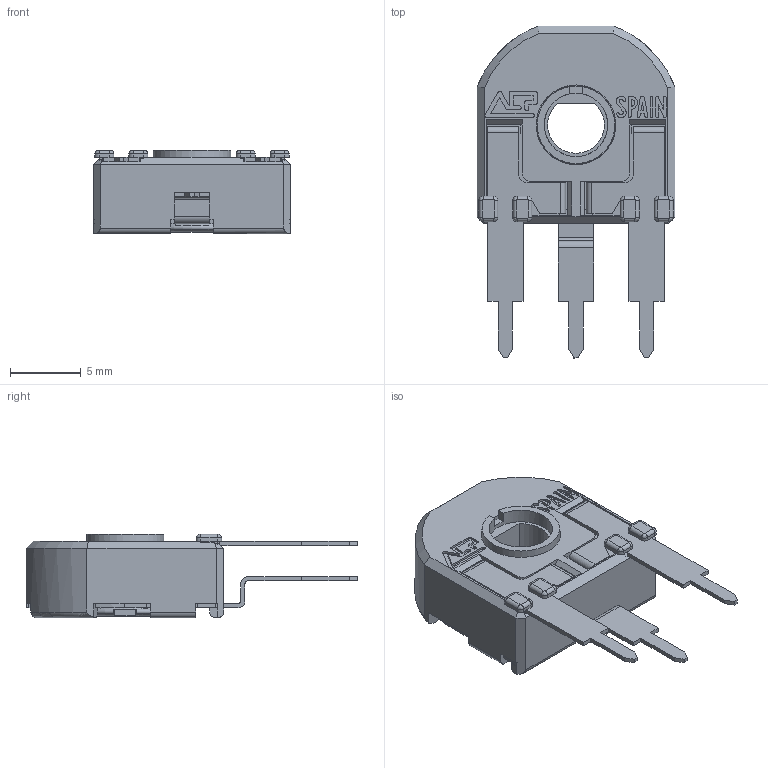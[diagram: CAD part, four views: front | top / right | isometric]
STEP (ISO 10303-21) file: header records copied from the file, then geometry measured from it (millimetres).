
FILE_DESCRIPTION(/* description */ (''),/* implementation_level */ '2;1');
FILE_NAME(/* name */ 'C:\Users\CEM\Desktop\ENVIAR\TRANSICION 3D CATALOGOS\CAR14FHA2,5.stp',/* time_stamp */ '2025-09-19T17:34:40+02:00',/* author */ ('CEM'),/* organization */ (''),/* preprocessor_version */ 'ST-DEVELOPER v17',/* originating_system */ 'Autodesk Inventor 2018',/* authorisation */ '');
FILE_SCHEMA (('AUTOMOTIVE_DESIGN { 1 0 10303 214 3 1 1 }'));
Length unit declared in the file: millimetre
Products named in the file (1): CAR14FHA2,5
Bounding box: 14 x 23.5 x 5.9 mm (x, y, z)
Volume: 548.6 mm3; surface area: 1567.3 mm2
Topology: 1 solids, 1 shells, 575 faces, 1676 edges, 1073 vertices
Faces by surface type: plane 393, cylinder 139, bspline 20, cone 14, torus 9
Full cylindrical faces by diameter (mm): 1.2 x2, 4.5 x1, 5.5 x1, 5.65 x1, 6.88 x1
Entity records: 19716 total; most frequent: CARTESIAN_POINT 3649, ORIENTED_EDGE 3352, DIRECTION 3149, EDGE_CURVE 1676, LINE 1239, VECTOR 1239, VERTEX_POINT 1073, AXIS2_PLACEMENT_3D 955
